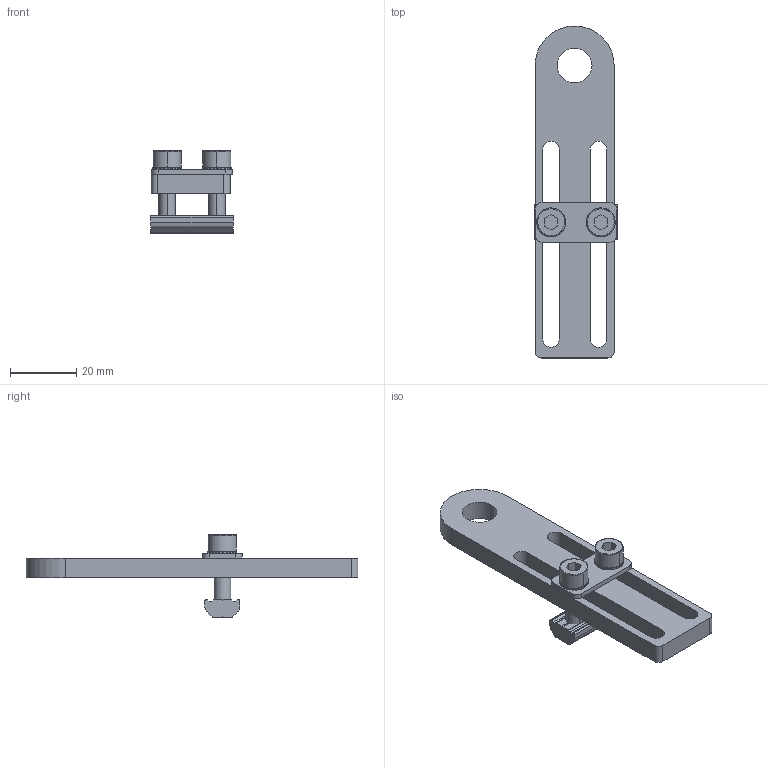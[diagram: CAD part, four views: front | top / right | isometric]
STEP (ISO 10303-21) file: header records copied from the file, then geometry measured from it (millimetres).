
FILE_DESCRIPTION (( 'STEP AP214' ), '1' );
FILE_NAME ('SMBE5-M1260.STEP', '2019-11-06T01:27:51', ( '微软用户' ), ( '微软中国' ), 'SwSTEP 2.0', 'SolidWorks 2016', '' );
FILE_SCHEMA (( 'AUTOMOTIVE_DESIGN' ));
Length unit declared in the file: millimetre
Products named in the file (1): SMBE5-M1260
Bounding box: 25 x 100.23 x 25 mm (x, y, z)
Volume: 12555.2 mm3; surface area: 9458.4 mm2
Topology: 7 solids, 7 shells, 510 faces, 1480 edges, 980 vertices
Faces by surface type: plane 447, cylinder 55, cone 4, bspline 4
Entity records: 22980 total; most frequent: CARTESIAN_POINT 3433, ORIENTED_EDGE 2960, DIRECTION 2932, EDGE_CURVE 1480, AXIS2_PLACEMENT_3D 985, VERTEX_POINT 980, LINE 962, VECTOR 962
